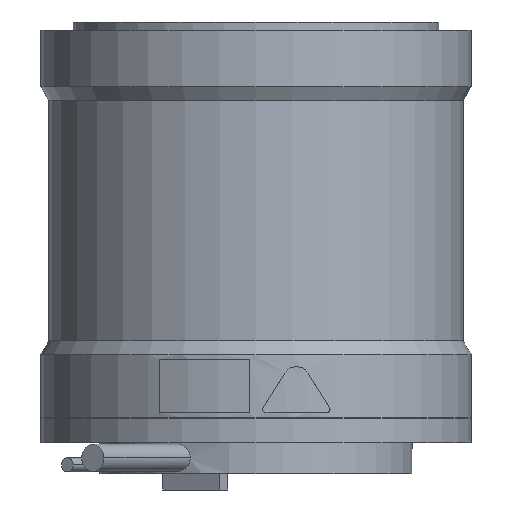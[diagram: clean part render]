
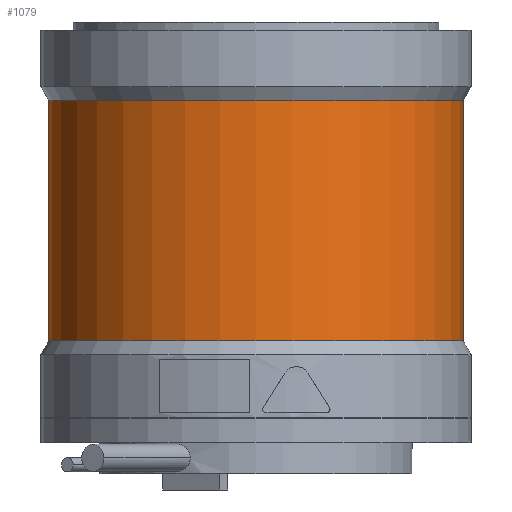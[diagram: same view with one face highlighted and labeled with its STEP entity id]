
A CAD part, left-side view. The second image highlights one B-rep face of the part: STEP entity #1079.
In plain terms, the highlighted cylindrical face has radius 77 mm (diameter 154 mm), a partial arc.
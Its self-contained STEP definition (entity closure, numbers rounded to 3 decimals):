
#650 = EDGE_CURVE ( 'NONE', #652, #1674, #2918, .T. ) ;
#652 = VERTEX_POINT ( 'NONE', #2901 ) ;
#654 = EDGE_CURVE ( 'NONE', #655, #1672, #2917, .T. ) ;
#655 = VERTEX_POINT ( 'NONE', #2906 ) ;
#1019 = EDGE_CURVE ( 'NONE', #652, #655, #3786, .T. ) ;
#1022 = EDGE_CURVE ( 'NONE', #1674, #1672, #3765, .T. ) ;
#1023 = EDGE_LOOP ( 'NONE', ( #1092, #1089, #1080, #1083 ) ) ;
#1079 = ADVANCED_FACE ( 'NONE', ( #3892 ), #3891, .T. ) ;
#1080 = ORIENTED_EDGE ( 'NONE', *, *, #654, .T. ) ;
#1083 = ORIENTED_EDGE ( 'NONE', *, *, #1022, .F. ) ;
#1089 = ORIENTED_EDGE ( 'NONE', *, *, #1019, .T. ) ;
#1092 = ORIENTED_EDGE ( 'NONE', *, *, #650, .F. ) ;
#1672 = VERTEX_POINT ( 'NONE', #4903 ) ;
#1674 = VERTEX_POINT ( 'NONE', #4915 ) ;
#2894 = DIRECTION ( 'NONE',  ( 0., 0., -1. ) ) ;
#2895 = VECTOR ( 'NONE', #2894, 1000. ) ;
#2896 = CARTESIAN_POINT ( 'NONE',  ( 0., 77., -72.556 ) ) ;
#2901 = CARTESIAN_POINT ( 'NONE',  ( 0., -77., 138.804 ) ) ;
#2902 = DIRECTION ( 'NONE',  ( 0., 0., -1. ) ) ;
#2903 = VECTOR ( 'NONE', #2902, 1000. ) ;
#2904 = CARTESIAN_POINT ( 'NONE',  ( 0., -77., -72.556 ) ) ;
#2906 = CARTESIAN_POINT ( 'NONE',  ( 0., 77., 138.804 ) ) ;
#2917 = LINE ( 'NONE', #2896, #2895 ) ;
#2918 = LINE ( 'NONE', #2904, #2903 ) ;
#3765 = CIRCLE ( 'NONE', #3767, 77. ) ;
#3767 = AXIS2_PLACEMENT_3D ( 'NONE', #3830, #3829, #3828 ) ;
#3768 = DIRECTION ( 'NONE',  ( 0., 1., 0. ) ) ;
#3769 = AXIS2_PLACEMENT_3D ( 'NONE', #3773, #3775, #3768 ) ;
#3773 = CARTESIAN_POINT ( 'NONE',  ( 0., 0., 138.804 ) ) ;
#3775 = DIRECTION ( 'NONE',  ( 0., 0., -1. ) ) ;
#3786 = CIRCLE ( 'NONE', #3769, 77. ) ;
#3828 = DIRECTION ( 'NONE',  ( 0., 1., 0. ) ) ;
#3829 = DIRECTION ( 'NONE',  ( 0., 0., -1. ) ) ;
#3830 = CARTESIAN_POINT ( 'NONE',  ( 0., 0., 49.496 ) ) ;
#3874 = DIRECTION ( 'NONE',  ( 0., 1., 0. ) ) ;
#3875 = DIRECTION ( 'NONE',  ( 0., 0., -1. ) ) ;
#3876 = CARTESIAN_POINT ( 'NONE',  ( 0., 0., -72.556 ) ) ;
#3885 = AXIS2_PLACEMENT_3D ( 'NONE', #3876, #3875, #3874 ) ;
#3891 = CYLINDRICAL_SURFACE ( 'NONE', #3885, 77. ) ;
#3892 = FACE_OUTER_BOUND ( 'NONE', #1023, .T. ) ;
#4903 = CARTESIAN_POINT ( 'NONE',  ( 0., 77., 49.496 ) ) ;
#4915 = CARTESIAN_POINT ( 'NONE',  ( 0., -77., 49.496 ) ) ;
